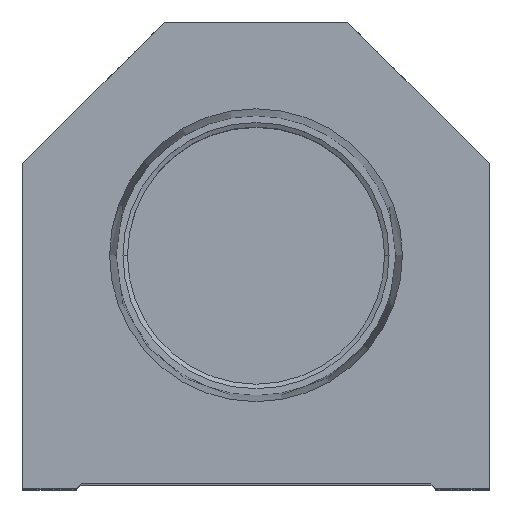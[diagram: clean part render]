
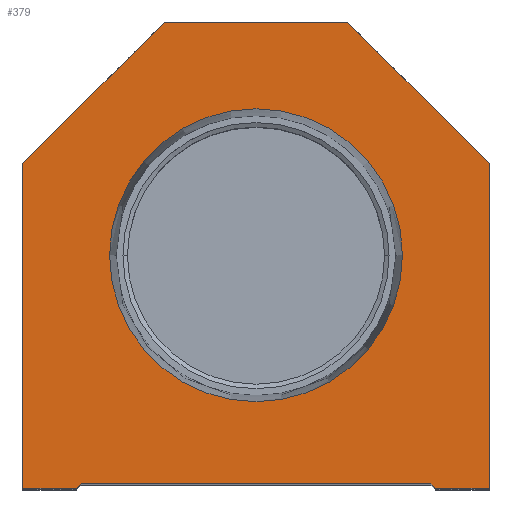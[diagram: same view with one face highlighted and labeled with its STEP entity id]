
A CAD part, top view. The second image highlights one B-rep face of the part: STEP entity #379.
In plain terms, the highlighted planar face has unit normal (0, 0, 1).
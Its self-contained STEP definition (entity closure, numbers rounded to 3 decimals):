
#26 = LINE ( 'NONE', #5769, #13201 ) ;
#154 = EDGE_CURVE ( 'NONE', #2785, #12004, #14428, .T. ) ;
#261 = DIRECTION ( 'NONE',  ( 1., 0., 0. ) ) ;
#281 = CARTESIAN_POINT ( 'NONE',  ( -25.4, 0., 0. ) ) ;
#298 = CARTESIAN_POINT ( 'NONE',  ( 10., 50.8, 0. ) ) ;
#379 = ADVANCED_FACE ( 'NONE', ( #4603, #11341 ), #6011, .T. ) ;
#519 = CARTESIAN_POINT ( 'NONE',  ( 19.05, 0.5, 0. ) ) ;
#680 = CARTESIAN_POINT ( 'NONE',  ( 15.947, 25.4, 0. ) ) ;
#827 = CIRCLE ( 'NONE', #17350, 15.947 ) ;
#1548 = DIRECTION ( 'NONE',  ( 1., 0., 0. ) ) ;
#1711 = AXIS2_PLACEMENT_3D ( 'NONE', #10725, #8673, #1548 ) ;
#1754 = LINE ( 'NONE', #6041, #9055 ) ;
#1768 = DIRECTION ( 'NONE',  ( -1., 0., 0. ) ) ;
#1807 = DIRECTION ( 'NONE',  ( 0., 0., 1. ) ) ;
#1980 = CARTESIAN_POINT ( 'NONE',  ( 25.4, 0., 0. ) ) ;
#2071 = CARTESIAN_POINT ( 'NONE',  ( -19.05, 0., 0. ) ) ;
#2153 = VERTEX_POINT ( 'NONE', #14029 ) ;
#2396 = VECTOR ( 'NONE', #1768, 1000. ) ;
#2444 = ORIENTED_EDGE ( 'NONE', *, *, #7075, .T. ) ;
#2583 = CARTESIAN_POINT ( 'NONE',  ( 25.4, 35.4, 0. ) ) ;
#2785 = VERTEX_POINT ( 'NONE', #13804 ) ;
#2893 = CIRCLE ( 'NONE', #1711, 15.947 ) ;
#3185 = LINE ( 'NONE', #1980, #18000 ) ;
#3198 = CARTESIAN_POINT ( 'NONE',  ( 0., 25.4, 0. ) ) ;
#3359 = DIRECTION ( 'NONE',  ( 0., 1., 0. ) ) ;
#3583 = ORIENTED_EDGE ( 'NONE', *, *, #10490, .T. ) ;
#3697 = ORIENTED_EDGE ( 'NONE', *, *, #16623, .T. ) ;
#4026 = ORIENTED_EDGE ( 'NONE', *, *, #13286, .F. ) ;
#4198 = ORIENTED_EDGE ( 'NONE', *, *, #154, .T. ) ;
#4603 = FACE_BOUND ( 'NONE', #7913, .T. ) ;
#4838 = CARTESIAN_POINT ( 'NONE',  ( -25.4, 35.4, 0. ) ) ;
#5200 = DIRECTION ( 'NONE',  ( 1., 0., 0. ) ) ;
#5380 = EDGE_CURVE ( 'NONE', #15847, #13118, #13562, .T. ) ;
#5675 = EDGE_LOOP ( 'NONE', ( #2444, #11562, #12806, #6250, #3583, #17889, #3697, #4198, #8588, #17782 ) ) ;
#5684 = CARTESIAN_POINT ( 'NONE',  ( 19.05, 0., 0. ) ) ;
#5769 = CARTESIAN_POINT ( 'NONE',  ( -25.4, 35.4, 0. ) ) ;
#6011 = PLANE ( 'NONE',  #14312 ) ;
#6041 = CARTESIAN_POINT ( 'NONE',  ( 9.775, 9.775, 0. ) ) ;
#6250 = ORIENTED_EDGE ( 'NONE', *, *, #11254, .T. ) ;
#6271 = VERTEX_POINT ( 'NONE', #680 ) ;
#6274 = ORIENTED_EDGE ( 'NONE', *, *, #12283, .F. ) ;
#6350 = LINE ( 'NONE', #2071, #18108 ) ;
#6381 = DIRECTION ( 'NONE',  ( 0.707, 0.707, 0. ) ) ;
#7075 = EDGE_CURVE ( 'NONE', #9658, #15847, #6350, .T. ) ;
#7151 = DIRECTION ( 'NONE',  ( 1., 0., 0. ) ) ;
#7250 = LINE ( 'NONE', #5684, #17820 ) ;
#7324 = VERTEX_POINT ( 'NONE', #4838 ) ;
#7467 = DIRECTION ( 'NONE',  ( 1., 0., 0. ) ) ;
#7765 = CARTESIAN_POINT ( 'NONE',  ( -19.05, 0.5, 0. ) ) ;
#7913 = EDGE_LOOP ( 'NONE', ( #4026, #6274 ) ) ;
#8039 = LINE ( 'NONE', #7765, #8363 ) ;
#8363 = VECTOR ( 'NONE', #5200, 1000. ) ;
#8432 = DIRECTION ( 'NONE',  ( -0.707, -0.707, 0. ) ) ;
#8588 = ORIENTED_EDGE ( 'NONE', *, *, #11988, .T. ) ;
#8603 = EDGE_CURVE ( 'NONE', #7324, #9658, #9814, .T. ) ;
#8613 = VECTOR ( 'NONE', #15459, 1000. ) ;
#8622 = CARTESIAN_POINT ( 'NONE',  ( -19.55, 0., 0. ) ) ;
#8673 = DIRECTION ( 'NONE',  ( 0., 0., 1. ) ) ;
#8708 = CARTESIAN_POINT ( 'NONE',  ( -25.4, 0., 0. ) ) ;
#9055 = VECTOR ( 'NONE', #13284, 1000. ) ;
#9319 = CARTESIAN_POINT ( 'NONE',  ( -9.775, 9.775, 0. ) ) ;
#9658 = VERTEX_POINT ( 'NONE', #281 ) ;
#9814 = LINE ( 'NONE', #8708, #8613 ) ;
#10076 = CARTESIAN_POINT ( 'NONE',  ( 25.4, 35.4, 0. ) ) ;
#10490 = EDGE_CURVE ( 'NONE', #12297, #2153, #7250, .T. ) ;
#10614 = CARTESIAN_POINT ( 'NONE',  ( -19.05, 0.5, 0. ) ) ;
#10725 = CARTESIAN_POINT ( 'NONE',  ( 0., 25.4, 0. ) ) ;
#10770 = VECTOR ( 'NONE', #15826, 1000. ) ;
#11254 = EDGE_CURVE ( 'NONE', #16326, #12297, #1754, .T. ) ;
#11341 = FACE_OUTER_BOUND ( 'NONE', #5675, .T. ) ;
#11465 = VERTEX_POINT ( 'NONE', #2583 ) ;
#11562 = ORIENTED_EDGE ( 'NONE', *, *, #5380, .T. ) ;
#11681 = DIRECTION ( 'NONE',  ( 1., 0., 0. ) ) ;
#11988 = EDGE_CURVE ( 'NONE', #12004, #7324, #26, .T. ) ;
#12004 = VERTEX_POINT ( 'NONE', #14228 ) ;
#12283 = EDGE_CURVE ( 'NONE', #15785, #6271, #2893, .T. ) ;
#12297 = VERTEX_POINT ( 'NONE', #15427 ) ;
#12806 = ORIENTED_EDGE ( 'NONE', *, *, #15629, .T. ) ;
#13118 = VERTEX_POINT ( 'NONE', #10614 ) ;
#13201 = VECTOR ( 'NONE', #8432, 1000. ) ;
#13284 = DIRECTION ( 'NONE',  ( 0.707, -0.707, 0. ) ) ;
#13286 = EDGE_CURVE ( 'NONE', #6271, #15785, #827, .T. ) ;
#13562 = LINE ( 'NONE', #9319, #17267 ) ;
#13804 = CARTESIAN_POINT ( 'NONE',  ( 10., 50.8, 0. ) ) ;
#14029 = CARTESIAN_POINT ( 'NONE',  ( 25.4, 0., 0. ) ) ;
#14197 = DIRECTION ( 'NONE',  ( 0., 0., 1. ) ) ;
#14228 = CARTESIAN_POINT ( 'NONE',  ( -10., 50.8, 0. ) ) ;
#14312 = AXIS2_PLACEMENT_3D ( 'NONE', #17246, #14197, #261 ) ;
#14325 = LINE ( 'NONE', #10076, #10770 ) ;
#14428 = LINE ( 'NONE', #298, #2396 ) ;
#15025 = EDGE_CURVE ( 'NONE', #2153, #11465, #3185, .T. ) ;
#15427 = CARTESIAN_POINT ( 'NONE',  ( 19.55, 0., 0. ) ) ;
#15459 = DIRECTION ( 'NONE',  ( 0., -1., 0. ) ) ;
#15629 = EDGE_CURVE ( 'NONE', #13118, #16326, #8039, .T. ) ;
#15785 = VERTEX_POINT ( 'NONE', #18194 ) ;
#15826 = DIRECTION ( 'NONE',  ( -0.707, 0.707, 0. ) ) ;
#15847 = VERTEX_POINT ( 'NONE', #8622 ) ;
#16326 = VERTEX_POINT ( 'NONE', #519 ) ;
#16623 = EDGE_CURVE ( 'NONE', #11465, #2785, #14325, .T. ) ;
#17246 = CARTESIAN_POINT ( 'NONE',  ( 0., 0., 0. ) ) ;
#17267 = VECTOR ( 'NONE', #6381, 1000. ) ;
#17350 = AXIS2_PLACEMENT_3D ( 'NONE', #3198, #1807, #7467 ) ;
#17782 = ORIENTED_EDGE ( 'NONE', *, *, #8603, .T. ) ;
#17820 = VECTOR ( 'NONE', #7151, 1000. ) ;
#17889 = ORIENTED_EDGE ( 'NONE', *, *, #15025, .T. ) ;
#18000 = VECTOR ( 'NONE', #3359, 1000. ) ;
#18108 = VECTOR ( 'NONE', #11681, 1000. ) ;
#18194 = CARTESIAN_POINT ( 'NONE',  ( -15.947, 25.4, 0. ) ) ;
